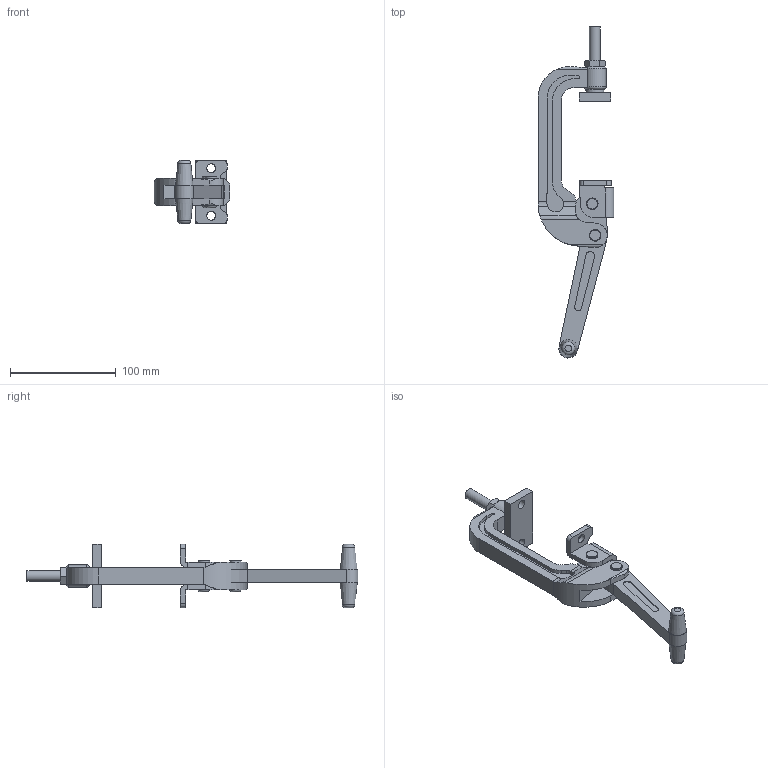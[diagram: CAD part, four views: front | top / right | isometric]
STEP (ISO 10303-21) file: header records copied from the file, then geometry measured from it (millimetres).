
FILE_DESCRIPTION( ( 'STEP AP203' ), '1' );
FILE_NAME( 'C:/Temp/Ganter_Step_05_03_2020/data/2_4/gn855/C-Clamp GN 855-75-32-C2 (tensioned).stp', '2020-03-13T05:49:50', ( 'License CC BY-ND 4.0' ), ( 'CADENAS' ), ' ', 'PARTsolutions', ' ' );
FILE_SCHEMA( ( 'CONFIG_CONTROL_DESIGN' ) );
Length unit declared in the file: millimetre
Products named in the file (5): C-Clamp GN 855-75-32-C2 (tensioned); _Buegelspanner GN 855-75-32-C2 (POS:0)_1; _Buegelspanner GN 855-75-32-C2 (POS:0)_3; _Buegelspanner GN 855-75-32-C2 (POS:0)_2; _Buegelspanner GN 855-75-32-C2 (POS:0)_4
Assembly tree (4 placements, depth 2):
  C-Clamp GN 855-75-32-C2 (tensioned)
    _Buegelspanner GN 855-75-32-C2 (POS:0)_1
    _Buegelspanner GN 855-75-32-C2 (POS:0)_3
    _Buegelspanner GN 855-75-32-C2 (POS:0)_2
    _Buegelspanner GN 855-75-32-C2 (POS:0)_4
Bounding box: 71.74 x 314.65 x 60 mm (x, y, z)
Volume: 168353.2 mm3; surface area: 53403.5 mm2
Topology: 4 solids, 4 shells, 219 faces, 597 edges, 396 vertices
Faces by surface type: plane 115, cylinder 75, cone 20, torus 8, sphere 1
Full cylindrical faces by diameter (mm): 8.5 x4, 10 x2, 10.6 x3, 11 x5, 17 x1
Entity records: 7103 total; most frequent: CARTESIAN_POINT 1525, DIRECTION 1123, ORIENTED_EDGE 1102, EDGE_CURVE 551, AXIS2_PLACEMENT_3D 415, VERTEX_POINT 383, LINE 293, VECTOR 293
